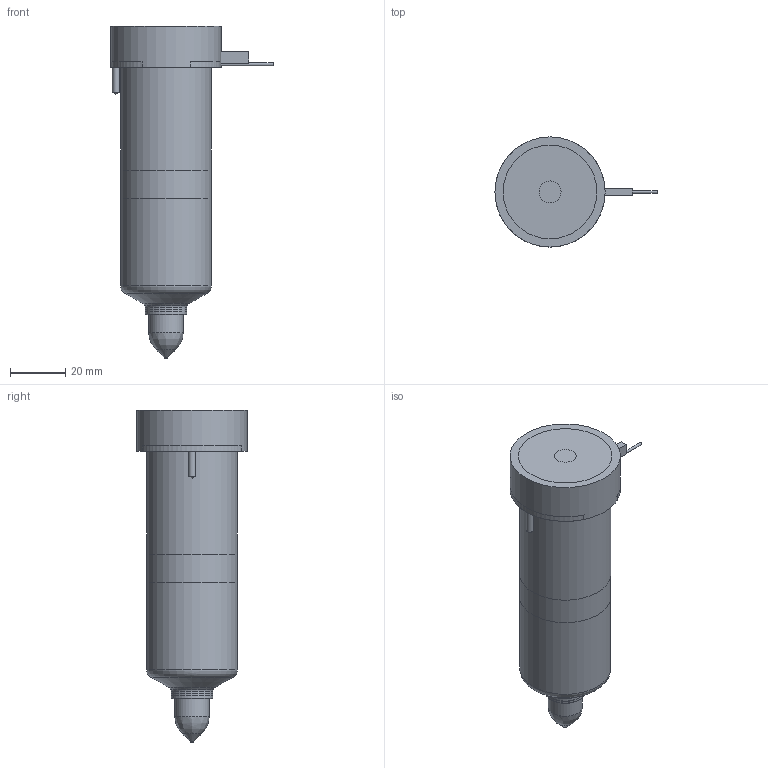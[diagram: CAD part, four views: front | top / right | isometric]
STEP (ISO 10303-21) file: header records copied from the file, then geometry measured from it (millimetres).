
FILE_DESCRIPTION(/* description */ (''),/* implementation_level */ '2;1');
FILE_NAME(/* name */ 'BXTT-BXIT19095-10_200C_b',/* time_stamp */ '2007-01-18T10:00:09+13:00',/* author */ (''),/* organization */ (''),/* preprocessor_version */ 'ST-DEVELOPER v9',/* originating_system */ 'UGS - NX 4.0',/* authorisation */ '');
FILE_SCHEMA (('CONFIG_CONTROL_DESIGN'));
Length unit declared in the file: millimetre
Products named in the file (1): BXTT-BXIT19095-10_200C_b
Bounding box: 58.85 x 40 x 120.48 mm (x, y, z)
Volume: 172509.3 mm3; surface area: 29942.1 mm2
Topology: 6 solids, 6 shells, 82 faces, 162 edges, 102 vertices
Faces by surface type: plane 35, cylinder 25, cone 12, torus 8, bspline 2
Full cylindrical faces by diameter (mm): 1 x3, 1.2 x1, 2.5 x2, 8 x1, 9 x1, 12.5 x1, 14.61 x1, 15.01 x2, 18.3 x1, 28.6 x1, 33 x2, 40 x1
Entity records: 2043 total; most frequent: CARTESIAN_POINT 427, DIRECTION 340, ORIENTED_EDGE 236, AXIS2_PLACEMENT_3D 151, EDGE_LOOP 128, EDGE_CURVE 118, VERTEX_POINT 95, ADVANCED_FACE 82
